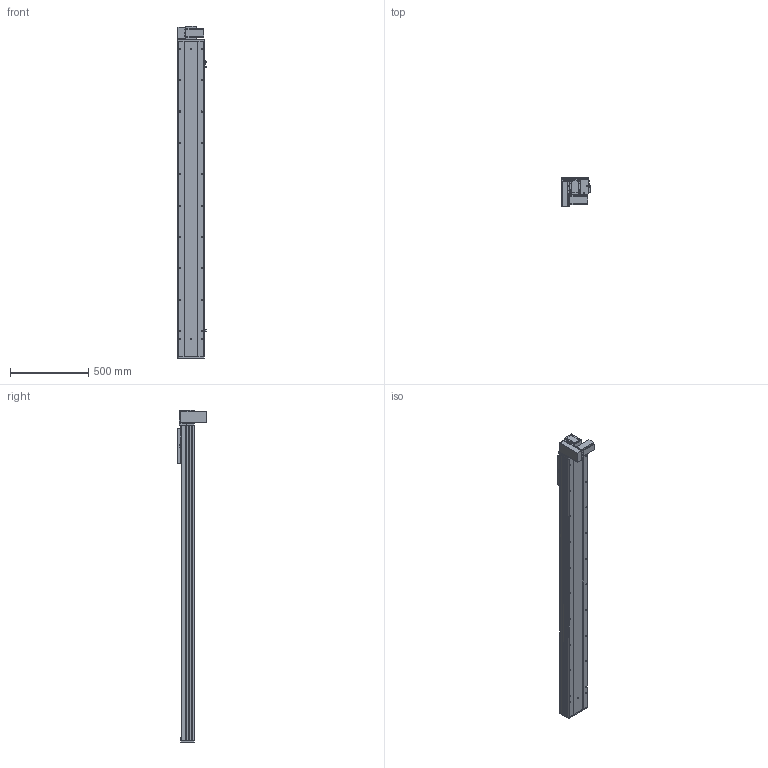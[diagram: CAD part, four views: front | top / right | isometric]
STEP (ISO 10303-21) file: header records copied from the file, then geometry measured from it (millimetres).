
FILE_DESCRIPTION (( 'STEP AP203' ), '1' );
FILE_NAME ('Y170CB-D105-S1700-BM-P400W.STEP', '2020-02-20T07:09:47', ( '微软用户' ), ( '微软中国' ), 'SwSTEP 2.0', 'SolidWorks 2017', '' );
FILE_SCHEMA (( 'CONFIG_CONTROL_DESIGN' ));
Length unit declared in the file: millimetre
Products named in the file (18): Y1埴倛裔; 70CB-耜裔啣-; 17B-耜蚾蟀諉啣----; 70C--詩湍揤踡え-; 00B-俋欶BM--163; 70CB--耜裔; 70B喘謫眊----; 70C-雄赽釱-奻-; B-源倛裔啣; Y170CB-D105-S1700-BM-P400W; 0C--雄赽釱俋欶-170; 0B-萇儂楊擘啣; 70CB-詩湍--; san松下电机400不带刹车----; Y100-135俋离換覜ん--; 70CB-掛极-; Y170CB-陔俋离換覜結え---; --70CB --喘謫眊楊擘啣-
Assembly tree (21 placements, depth 2):
  Y170CB-D105-S1700-BM-P400W
    B-源倛裔啣
    0B-萇儂楊擘啣
    san松下电机400不带刹车----
    70CB-掛极-
    --70CB --喘謫眊楊擘啣-
    70CB-耜裔啣-  x2
    70C--詩湍揤踡え-  x2
    70CB--耜裔
    70C-雄赽釱-奻-
    0C--雄赽釱俋欶-170
    70CB-詩湍--
    Y100-135俋离換覜ん--  x3
    Y170CB-陔俋离換覜結え---
    Y1埴倛裔
    17B-耜蚾蟀諉啣----
    00B-俋欶BM--163
    70B喘謫眊----
Bounding box: 183.5 x 184 x 2116 mm (x, y, z)
Volume: 9295050.8 mm3; surface area: 3347539.9 mm2
Topology: 21 solids, 21 shells, 1039 faces, 2789 edges, 1850 vertices
Faces by surface type: cylinder 553, plane 462, cone 24
Entity records: 33204 total; most frequent: CARTESIAN_POINT 6096, DIRECTION 5402, ORIENTED_EDGE 5060, EDGE_CURVE 2530, AXIS2_PLACEMENT_3D 1988, VERTEX_POINT 1680, VECTOR 1426, LINE 1426
